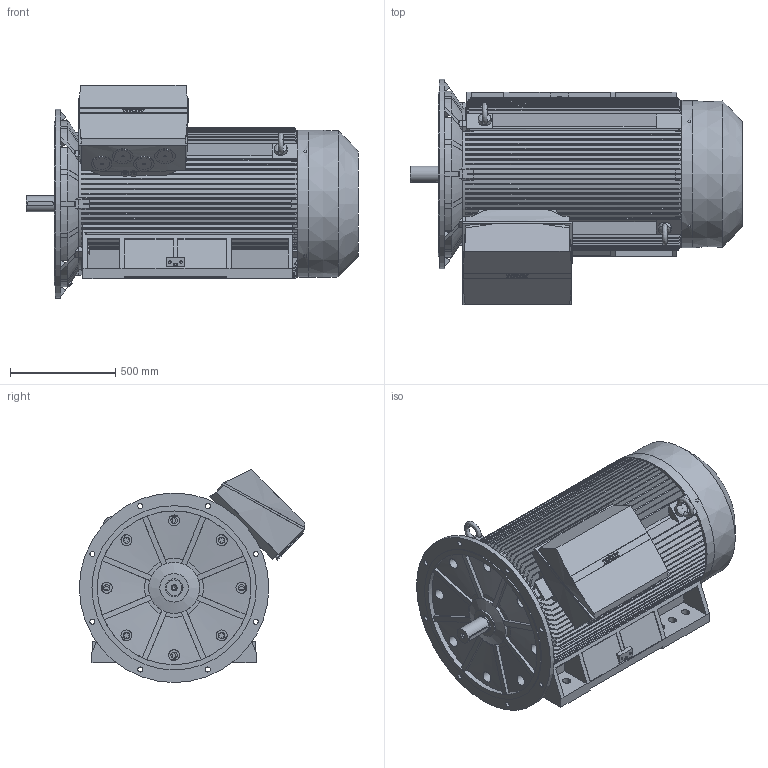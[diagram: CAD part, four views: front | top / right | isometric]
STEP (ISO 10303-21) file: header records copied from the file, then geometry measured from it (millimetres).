
FILE_DESCRIPTION (( 'STEP AP214' ), '1' );
FILE_NAME ('7RN355L02E35 IM2021_Rev.1A.STEP', '2018-09-28T09:42:52', ( 'rbc_ict' ), ( '' ), 'SwSTEP 2.0', 'SolidWorks 2015', '' );
FILE_SCHEMA (( 'AUTOMOTIVE_DESIGN' ));
Length unit declared in the file: millimetre
Products named in the file (1): 7RN355L02E35 IM2021_Rev.1A
Bounding box: 1577 x 1070.13 x 1012.15 mm (x, y, z)
Volume: 586478507.4 mm3; surface area: 12591019.5 mm2
Topology: 1 solids, 4 shells, 1483 faces, 4152 edges, 2739 vertices
Faces by surface type: plane 976, cylinder 258, bspline 226, cone 23
Full cylindrical faces by diameter (mm): 12 x4, 15 x2, 17 x2, 20 x2, 23 x2, 24 x9, 30 x8, 31 x2, 52 x8, 60 x2, 75 x1, 76 x4, 85 x1, 97 x4, 135 x1, 700 x1, 730 x1, 780 x1, 900 x1
Entity records: 73977 total; most frequent: CARTESIAN_POINT 22884, ORIENTED_EDGE 8126, DIRECTION 6267, EDGE_CURVE 4063, VERTEX_POINT 2715, LINE 2555, VECTOR 2555, AXIS2_PLACEMENT_3D 1856
